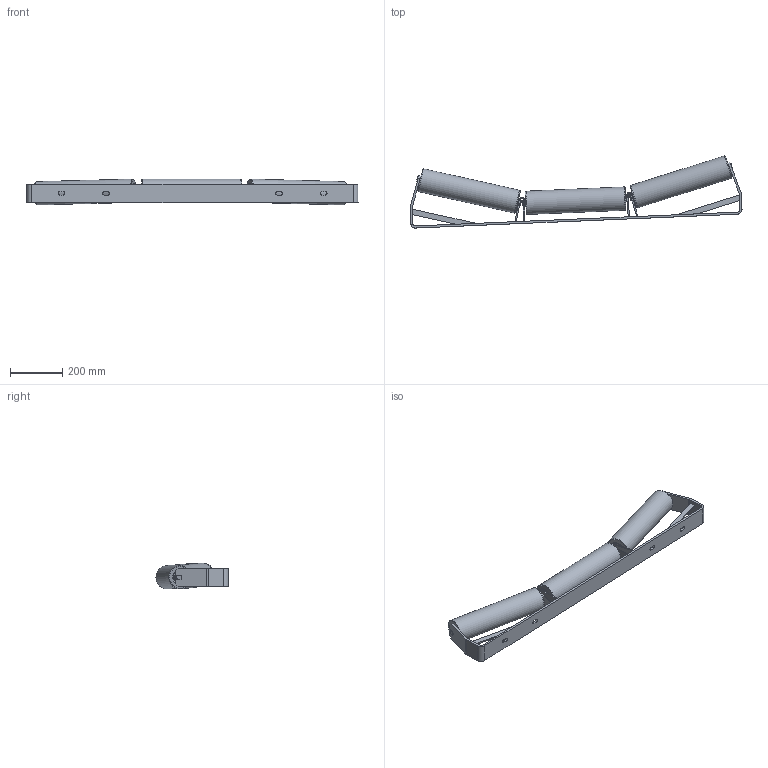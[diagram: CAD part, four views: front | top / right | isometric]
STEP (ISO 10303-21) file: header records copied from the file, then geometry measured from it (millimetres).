
FILE_DESCRIPTION(/* description */ (''),/* implementation_level */ '2;1');
FILE_NAME(/* name */ 'C:\STEP\140-026-00-1.Stp',/* time_stamp */ '2019-12-16T13:47:15+01:00',/* author */ ('js'),/* organization */ (''),/* preprocessor_version */ 'ST-DEVELOPER v17',/* originating_system */ 'Autodesk Inventor 2019',/* authorisation */ '0 mm^3');
FILE_SCHEMA (('AUTOMOTIVE_DESIGN { 1 0 10303 214 3 1 1 }'));
Length unit declared in the file: millimetre
Products named in the file (6): 140-026-00; 140-026; 140-026-03; 140-026-02; 140-026-01; 80031
Assembly tree (9 placements, depth 3):
  140-026-00
    140-026
      140-026-03  x2
      140-026-02  x2
      140-026-01
    80031  x3
Bounding box: 1265.29 x 274.87 x 98.74 mm (x, y, z)
Volume: 2645632.9 mm3; surface area: 1233613.5 mm2
Topology: 59 solids, 71 shells, 821 faces, 2249 edges, 1608 vertices
Faces by surface type: plane 286, cylinder 211, torus 180, cone 96, sphere 48
Full cylindrical faces by diameter (mm): 19 x6, 20 x21, 20.5 x6, 24 x6, 25.2 x6, 26.3 x12, 28.8 x12, 31 x6, 33.2 x6, 36.5 x6, 38.7 x12, 39.8 x6, 40.6 x18, 47 x24, 52.8 x6, 83.1 x3, 86 x6, 88.9 x3
Entity records: 11764 total; most frequent: DIRECTION 2191, CARTESIAN_POINT 1955, ORIENTED_EDGE 1814, AXIS2_PLACEMENT_3D 940, EDGE_CURVE 907, VERTEX_POINT 704, CIRCLE 596, EDGE_LOOP 425
